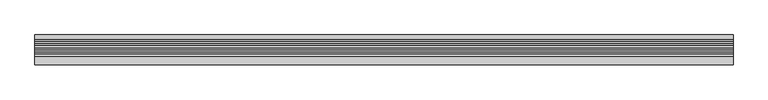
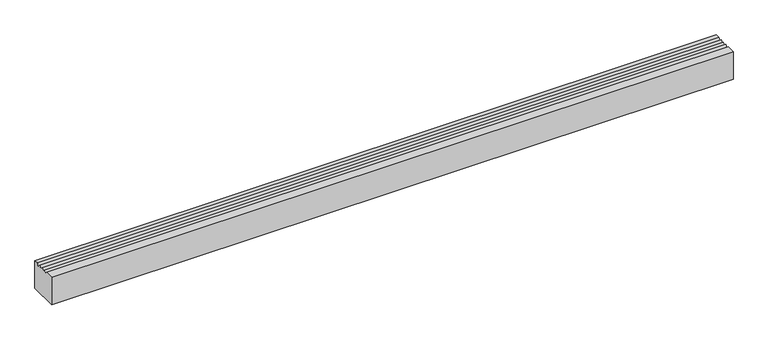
"""IFC4 building model written with IfcOpenShell, lengths in millimetres: proxy geometry, Modèles génériques 1 : Modèles génériques 1."""

from ifc_helpers import new_model, si_unit, frame, origin, place, context, project, spatial, polyline, outline, extrude, source, transform, mapped, element, save


def generic_models_4fe8146a(model_context):
    return source(origin(), model_context, "Body", "SweptSolid", [
        extrude(outline(polyline([(2132.0685723, 5940.0), (2132.0685723, 5990.0), (2146.7132332, 5990.0), (2150.2487671, 5986.4644661), (2153.784301, 5990.0), (2157.319835, 5986.4644661), (2160.8553689, 5990.0), (2164.3909028, 5986.4644661), (2167.9264367, 5990.0), (2171.4619706, 5986.4644661), (2174.9975045, 5990.0), (2182.0685723, 5990.0), (2182.0685723, 5940.0), (2132.0685723, 5940.0)])), frame((10693.2466393, 0.0, 0.0), z_axis=(1.0, 0.0, 0.0), x_axis=(0.0, 1.0, 0.0)), (0.0, 0.0, 1.0), 1168.5),
    ])


if __name__ == "__main__":
    model = new_model("IFC4")
    model_context = context("Model", 3, world=origin())
    ifc_project = project(units=[si_unit("LENGTHUNIT", "METRE", prefix="MILLI")], contexts=[model_context])
    site = spatial("IfcSite", under=ifc_project)
    building = spatial("IfcBuilding", under=site)
    placement = place(None, origin())
    generic_models_shape = generic_models_4fe8146a(model_context)
    element("IfcBuildingElementProxy", 1, Name="Modèles génériques 1 : Modèles génériques 1", ObjectType="Modèles génériques 1 : Modèles génériques 1", at=placement, inside=building, context=model_context, shape_type="MappedRepresentation", body=[
        mapped(generic_models_shape, transform((0.0, 0.0, 0.0), x_axis=(1.0, 0.0, 0.0), y_axis=(0.0, 1.0, 0.0), z_axis=(0.0, 0.0, 1.0))),
    ])
    save(model, "model.ifc")
